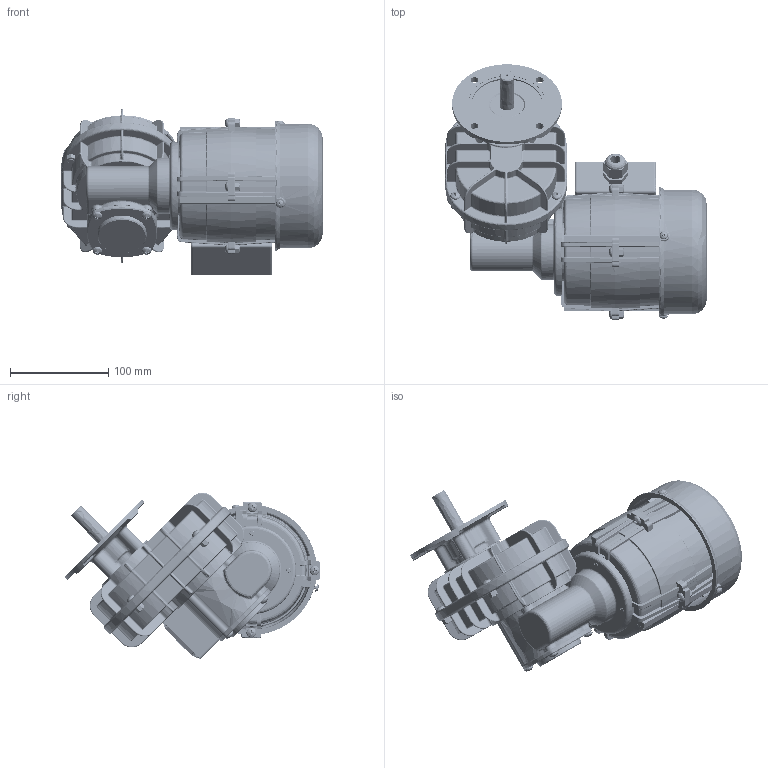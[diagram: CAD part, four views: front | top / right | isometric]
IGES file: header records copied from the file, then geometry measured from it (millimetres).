
Global section: file name: PROJETO MOTOR VXRSVX 2P EIXO DE 15; native system: Autodesk Inventor 2015; preprocessor: unknown; author: User; date: 20190716.161205; units: centimetre
Bounding box: 266.51 x 260.13 x 169.39 mm (x, y, z)
Surface area: 617037.3 mm2
Topology: 36 solids, 38 shells, 5987 faces, 16275 edges, 10277 vertices
Faces by surface type: bspline 5987
